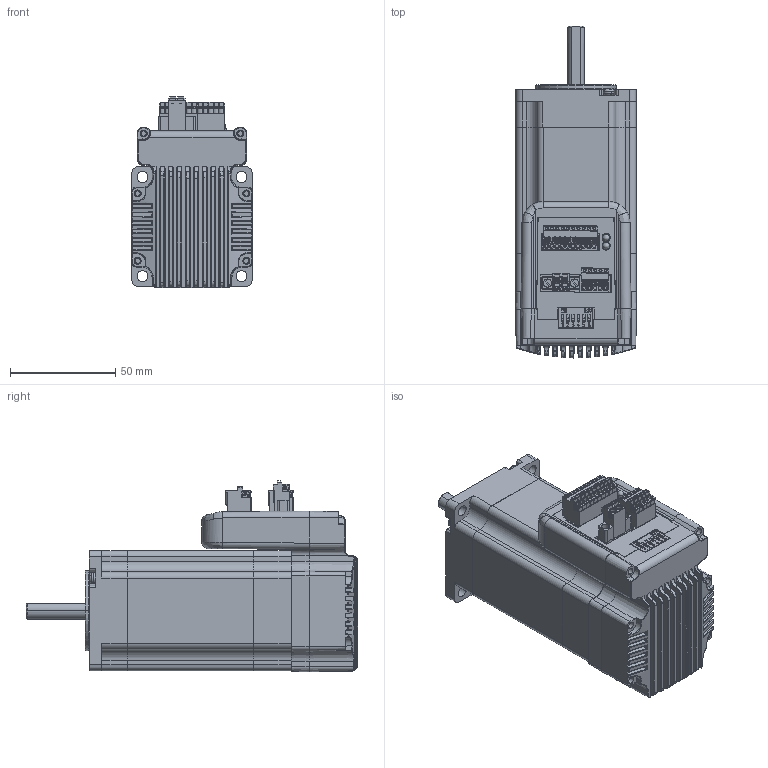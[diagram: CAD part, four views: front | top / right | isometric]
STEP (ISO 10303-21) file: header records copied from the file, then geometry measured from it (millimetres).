
FILE_DESCRIPTION (( 'STEP AP203' ), '1' );
FILE_NAME ('iHSV57-30-14-36.STEP', '2019-09-29T03:21:11', ( 'USER-' ), ( 'MS' ), 'SwSTEP 2.0', 'SolidWorks 2015', '' );
FILE_SCHEMA (( 'CONFIG_CONTROL_DESIGN' ));
Length unit declared in the file: millimetre
Products named in the file (30): 珨极趙匿鎢; Assem1_Insulator_2;Insulator_2_1; LED-D3G_1; 2way 3.81s_1; Assem1_clip;clip_3_1; 儂旯-14; 2.5mm-5way-s_1; Assem1_clip;clip_4_1; 57JS15EDGKD-2.5-5P-MALE; 2.5mm-10way-s_1; Assem1_clip;clip_2_1; 侜督綴裔_1; 15EDGKD-2.5-10P; 珨极趙醱啣1_1; Assem1_Insulator_2-2;Insulator_2_1; 57一体化散热器_1; 15EDGKDM-3.81-2P; 57呿蝶耀_1; Assem1_clip;clip_1_1; Assem1_clip;clip_5_1; 珨极趙侜督奻裔-38point1mm; 蹟佪芛_1; Assem1_clip;clip_6; Assem1_Insulator_2-3;Insulator_2_1; Assem1_Base_switch;Base_switch; 57-P PCB_1; Assem1_Insulator_2-1;Insulator_2_1; Assem1_Insulator_1;Insulator_1_1; iHSV57-30-14-36; LED-D3R_1
Assembly tree (33 placements, depth 3):
  iHSV57-30-14-36
    侜督綴裔_1
    57一体化散热器_1
    珨极趙匿鎢
      Assem1_clip;clip_5_1  x2
      Assem1_Insulator_2-3;Insulator_2_1
      Assem1_Insulator_1;Insulator_1_1
      Assem1_Insulator_2;Insulator_2_1
      Assem1_clip;clip_3_1
      Assem1_clip;clip_4_1
      Assem1_clip;clip_2_1
      Assem1_Insulator_2-2;Insulator_2_1
      Assem1_clip;clip_1_1
      Assem1_clip;clip_6
      Assem1_Insulator_2-1;Insulator_2_1
    2way 3.81s_1
    2.5mm-5way-s_1
    2.5mm-10way-s_1
    珨极趙醱啣1_1
    57呿蝶耀_1
    蹟佪芛_1  x4
    57-P PCB_1
    LED-D3R_1
    LED-D3G_1
    儂旯-14
    57JS15EDGKD-2.5-5P-MALE
    15EDGKD-2.5-10P
    15EDGKDM-3.81-2P
    珨极趙侜督奻裔-38point1mm
    Assem1_Base_switch;Base_switch
Bounding box: 57.4 x 157.53 x 90.9 mm (x, y, z)
Volume: 341259.5 mm3; surface area: 108260 mm2
Topology: 37 solids, 42 shells, 4346 faces, 11439 edges, 7415 vertices
Faces by surface type: plane 2773, cylinder 1174, bspline 231, cone 136, torus 28, sphere 4
Entity records: 148248 total; most frequent: CARTESIAN_POINT 41142, ORIENTED_EDGE 22318, DIRECTION 20402, EDGE_CURVE 11166, VECTOR 7726, LINE 7726, VERTEX_POINT 7251, AXIS2_PLACEMENT_3D 6338
